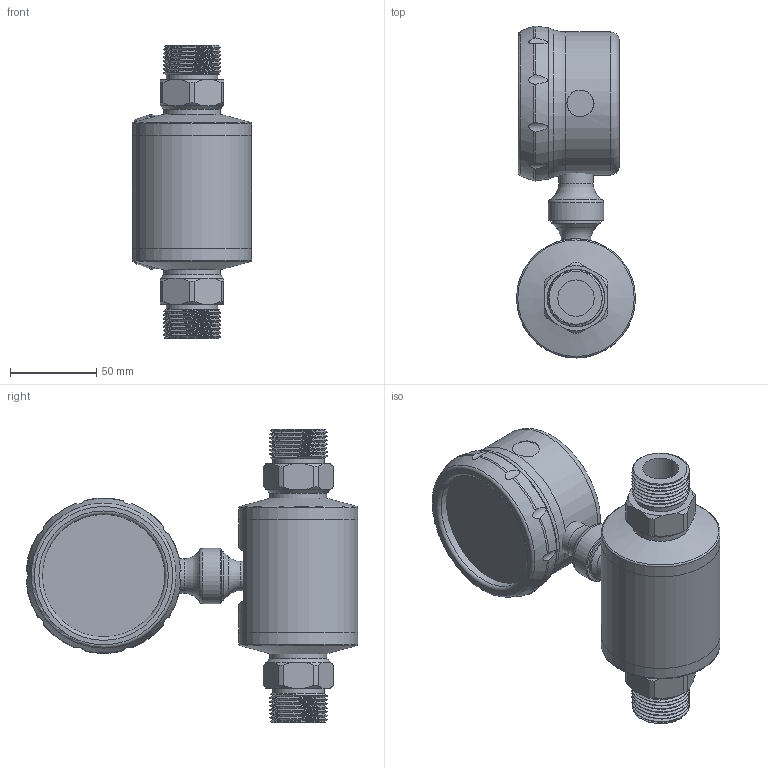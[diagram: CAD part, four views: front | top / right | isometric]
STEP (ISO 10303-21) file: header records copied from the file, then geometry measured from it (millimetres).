
FILE_DESCRIPTION( (''), '2;1');
FILE_NAME( 'QMKD_DN15_H50.5_male-thread.step', '2024-08-30T08:47:41+08:00', (''), (''), '', '', '');
FILE_SCHEMA (('AUTOMOTIVE_DESIGN { 1 0 10303 214 3 1 1 1 }'));
Length unit declared in the file: millimetre
Products named in the file (1): QMKD DN15_H50.5_male-thread
Bounding box: 69 x 192.31 x 170 mm (x, y, z)
Volume: 724478.3 mm3; surface area: 122833.7 mm2
Topology: 10 solids, 10 shells, 198 faces, 468 edges, 306 vertices
Faces by surface type: plane 67, cylinder 61, cone 42, torus 20, bspline 8
Full cylindrical faces by diameter (mm): 15 x2, 15.5 x1, 17 x1, 20 x1, 21 x2, 26 x1, 28 x1, 30 x4, 32 x1, 33 x2, 60 x2, 69 x3, 71 x1, 80 x2, 82 x5, 83 x1
Entity records: 11415 total; most frequent: CARTESIAN_POINT 7344, DIRECTION 792, ORIENTED_EDGE 770, EDGE_CURVE 385, AXIS2_PLACEMENT_3D 356, VERTEX_POINT 274, EDGE_LOOP 261, ADVANCED_FACE 193
